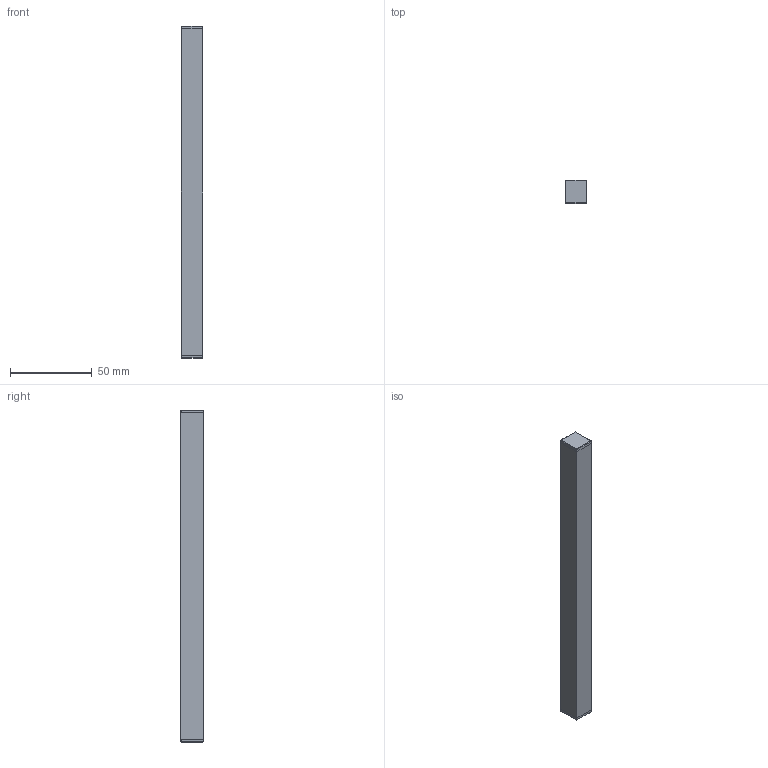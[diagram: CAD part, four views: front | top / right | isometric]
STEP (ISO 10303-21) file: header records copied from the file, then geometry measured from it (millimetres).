
FILE_DESCRIPTION (( 'STEP AP203' ), '1' );
FILE_NAME ('AS11.STEP', '2024-12-11T04:31:06', ( '' ), ( '' ), 'SwSTEP 2.0', 'SolidWorks 2023', '' );
FILE_SCHEMA (( 'CONFIG_CONTROL_DESIGN' ));
Length unit declared in the file: millimetre
Products named in the file (4): AS11 LENS CONFIG; AS11; AS11 CHANNEL CONFIG; AS11 ENDCAP CONFIG_NO HOLE
Assembly tree (4 placements, depth 2):
  AS11
    AS11 CHANNEL CONFIG
    AS11 LENS CONFIG
    AS11 ENDCAP CONFIG_NO HOLE  x2
Bounding box: 13.1 x 14.11 x 203.6 mm (x, y, z)
Volume: 14124.1 mm3; surface area: 25457.1 mm2
Topology: 4 solids, 4 shells, 307 faces, 783 edges, 418 vertices
Faces by surface type: cylinder 123, bspline 96, plane 80, cone 8
Entity records: 7353 total; most frequent: CARTESIAN_POINT 2596, ORIENTED_EDGE 918, DIRECTION 911, EDGE_CURVE 459, AXIS2_PLACEMENT_3D 343, VERTEX_POINT 278, LINE 225, VECTOR 225
